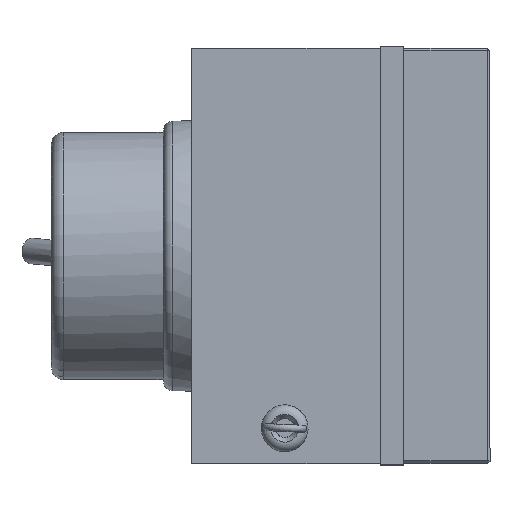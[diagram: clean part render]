
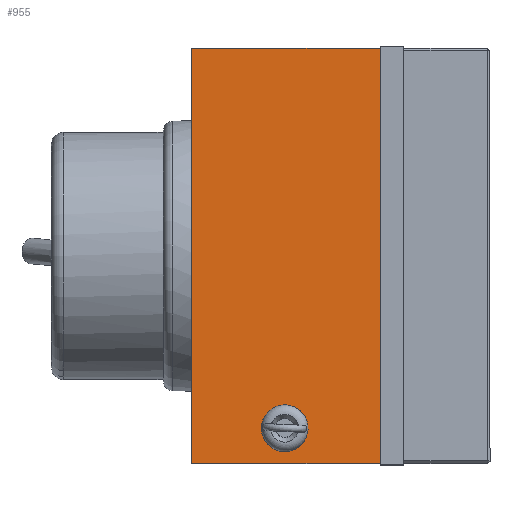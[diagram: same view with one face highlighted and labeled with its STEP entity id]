
A CAD part, top view. The second image highlights one B-rep face of the part: STEP entity #955.
In plain terms, the highlighted planar face has unit normal (0, 0, 1).
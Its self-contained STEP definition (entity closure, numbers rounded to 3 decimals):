
#955 = ADVANCED_FACE( '', ( #2091, #2092 ), #2093, .F. );
#2091 = FACE_BOUND( '', #4552, .T. );
#2092 = FACE_OUTER_BOUND( '', #4553, .T. );
#2093 = PLANE( '', #4554 );
#4552 = EDGE_LOOP( '', ( #7071 ) );
#4553 = EDGE_LOOP( '', ( #7072, #7073, #7074, #7075 ) );
#4554 = AXIS2_PLACEMENT_3D( '', #7076, #7077, #7078 );
#7071 = ORIENTED_EDGE( '', *, *, #7456, .F. );
#7072 = ORIENTED_EDGE( '', *, *, #7858, .T. );
#7073 = ORIENTED_EDGE( '', *, *, #7369, .F. );
#7074 = ORIENTED_EDGE( '', *, *, #8029, .F. );
#7075 = ORIENTED_EDGE( '', *, *, #7948, .T. );
#7076 = CARTESIAN_POINT( '', ( 74.326, 44.5, 44.5 ) );
#7077 = DIRECTION( '', ( 0., 0., -1. ) );
#7078 = DIRECTION( '', ( 1., 0., 0. ) );
#7369 = EDGE_CURVE( '', #8396, #8391, #8398, .T. );
#7456 = EDGE_CURVE( '', #8533, #8533, #8534, .F. );
#7858 = EDGE_CURVE( '', #9128, #8391, #9131, .T. );
#7948 = EDGE_CURVE( '', #9251, #9128, #9252, .T. );
#8029 = EDGE_CURVE( '', #9251, #8396, #9345, .T. );
#8391 = VERTEX_POINT( '', #9828 );
#8396 = VERTEX_POINT( '', #9835 );
#8398 = LINE( '', #9838, #9839 );
#8533 = VERTEX_POINT( '', #10073 );
#8534 = CIRCLE( '', #10074, 5. );
#9128 = VERTEX_POINT( '', #12418 );
#9131 = LINE( '', #12423, #12424 );
#9251 = VERTEX_POINT( '', #12581 );
#9252 = LINE( '', #12582, #12583 );
#9345 = LINE( '', #12740, #12741 );
#9828 = CARTESIAN_POINT( '', ( 33.826, -44.5, 44.5 ) );
#9835 = CARTESIAN_POINT( '', ( 74.326, -44.5, 44.5 ) );
#9838 = CARTESIAN_POINT( '', ( 74.326, -44.5, 44.5 ) );
#9839 = VECTOR( '', #13039, 1000. );
#10073 = CARTESIAN_POINT( '', ( 53.826, -32., 44.5 ) );
#10074 = AXIS2_PLACEMENT_3D( '', #13139, #13140, #13141 );
#12418 = CARTESIAN_POINT( '', ( 33.826, 44.5, 44.5 ) );
#12423 = CARTESIAN_POINT( '', ( 33.826, 44.5, 44.5 ) );
#12424 = VECTOR( '', #13602, 1000. );
#12581 = CARTESIAN_POINT( '', ( 74.326, 44.5, 44.5 ) );
#12582 = CARTESIAN_POINT( '', ( 74.326, 44.5, 44.5 ) );
#12583 = VECTOR( '', #13693, 1000. );
#12740 = CARTESIAN_POINT( '', ( 74.326, 44.5, 44.5 ) );
#12741 = VECTOR( '', #13741, 1000. );
#13039 = DIRECTION( '', ( -1., 0., 0. ) );
#13139 = CARTESIAN_POINT( '', ( 53.826, -37., 44.5 ) );
#13140 = DIRECTION( '', ( 0., 0., -1. ) );
#13141 = DIRECTION( '', ( 0., 1., 0. ) );
#13602 = DIRECTION( '', ( 0., -1., 0. ) );
#13693 = DIRECTION( '', ( -1., 0., 0. ) );
#13741 = DIRECTION( '', ( 0., -1., 0. ) );
